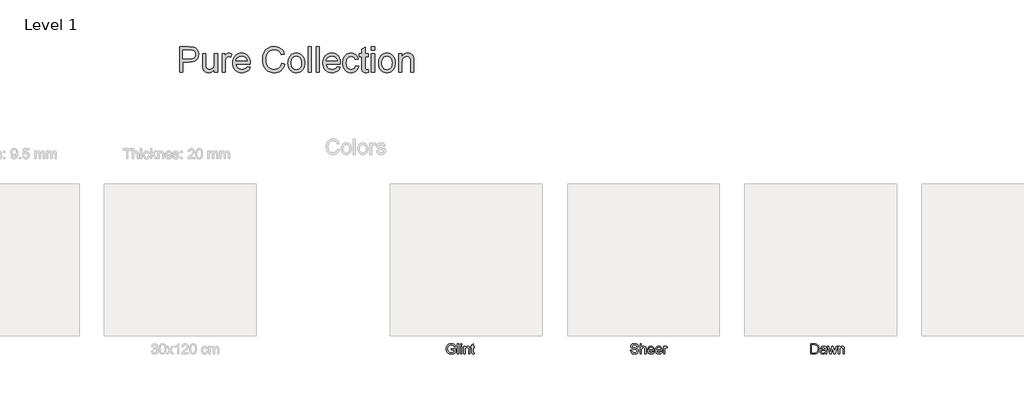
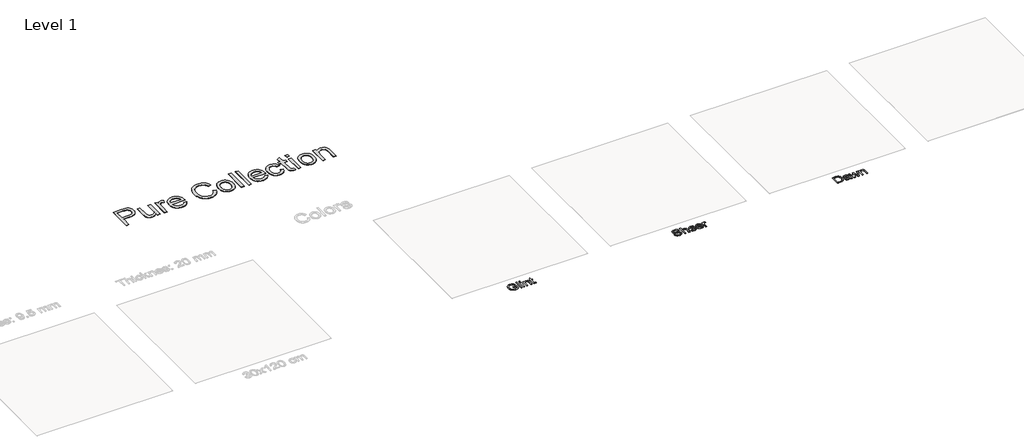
# One storey, part 4 of 5: 4 proxies.
"""IFC4 building model written with IfcOpenShell, lengths in millimetres."""

import ifcopenshell
import ifcopenshell.guid

model = None  # the IFC model being written
_history = None  # IfcOwnerHistory: only IFC2X3 demands one
_inside = {}  # id of a spatial element -> (the spatial element, [elements in it])
_under = {}  # id of a project, library or spatial element -> (it, [spatial elements below it])
_declared = {}  # id of a project -> (the project, [libraries it declares])
_typed = {}  # id of a type object -> (the type object, [elements of that type])
_made_of = {}  # id of a material, layer set ... -> (it, [elements and type objects made of it])


def new_model(schema):
    """Start an empty IFC model of exactly this schema.

    Asked for "IFC4X3", IfcOpenShell would pick the latest addendum, in which some entities
    have other attributes; the version numbers below select the first issue.
    IFC2X3 requires an IfcOwnerHistory on every rooted entity: one is made here for all.
    """
    global model, _history
    if schema == "IFC4X3":
        model = ifcopenshell.file(schema_version=(4, 3, 0, 0))
    else:
        model = ifcopenshell.file(schema=schema)
    _inside.clear()
    _under.clear()
    _declared.clear()
    _typed.clear()
    _made_of.clear()
    _history = None
    if model.schema == "IFC2X3":
        org = make("IfcOrganization", Name="unknown")
        user = make(
            "IfcPersonAndOrganization",
            ThePerson=make("IfcPerson", FamilyName="unknown"),
            TheOrganization=org,
        )
        app = make(
            "IfcApplication",
            ApplicationDeveloper=org,
            Version="unknown",
            ApplicationFullName="unknown",
            ApplicationIdentifier="unknown",
        )
        _history = make(
            "IfcOwnerHistory",
            OwningUser=user,
            OwningApplication=app,
            ChangeAction="ADDED",
            CreationDate=0,
        )
    return model


def make(cls, **values):
    """One entity of the class cls with the attributes given. An attribute that is None is left unset."""
    return model.create_entity(
        cls, **{name: value for name, value in values.items() if value is not None}
    )


def rooted(cls, **values):
    """An entity with a GlobalId (a new one), such as an element, a storey or a relation."""
    return make(cls, GlobalId=ifcopenshell.guid.new(), OwnerHistory=_history, **values)


def si_unit(unit_type, name, prefix=None):
    """IfcSIUnit, for example si_unit("LENGTHUNIT", "METRE", prefix="MILLI")."""
    return make("IfcSIUnit", UnitType=unit_type, Prefix=prefix, Name=name)


def assignment(units):
    """IfcUnitAssignment: the units of a project."""
    return None if units is None else make("IfcUnitAssignment", Units=units)


def point(xyz):
    """IfcCartesianPoint."""
    return None if xyz is None else make("IfcCartesianPoint", Coordinates=xyz)


def direction(xyz):
    """IfcDirection."""
    return None if xyz is None else make("IfcDirection", DirectionRatios=xyz)


def frame(location, z_axis=None, x_axis=None):
    """IfcAxis2Placement3D, a coordinate frame: its origin and axes. An axis left out is left unset."""
    return make(
        "IfcAxis2Placement3D",
        Location=point(location),
        Axis=direction(z_axis),
        RefDirection=direction(x_axis),
    )


def origin():
    """The frame at (0, 0, 0) with its axes left unset."""
    return frame((0.0, 0.0, 0.0))


def origin_with_axes():
    """The frame at (0, 0, 0) with the z axis (0, 0, 1) and the x axis (1, 0, 0) written out."""
    return frame((0.0, 0.0, 0.0), z_axis=(0.0, 0.0, 1.0), x_axis=(1.0, 0.0, 0.0))


def place(relative_to, where):
    """IfcLocalPlacement: puts the frame where relative to a parent placement (None: the world)."""
    return make(
        "IfcLocalPlacement", PlacementRelTo=relative_to, RelativePlacement=where
    )


def context(
    kind, dimensions, precision=None, world=None, true_north=None, identifier=None
):
    """IfcGeometricRepresentationContext, for example the 3D "Model" context."""
    return make(
        "IfcGeometricRepresentationContext",
        ContextIdentifier=identifier,
        ContextType=kind,
        CoordinateSpaceDimension=dimensions,
        Precision=precision,
        WorldCoordinateSystem=world,
        TrueNorth=true_north,
    )


def project(units=None, contexts=None):
    """IfcProject with its units and contexts."""
    return rooted(
        "IfcProject",
        Name="project",
        RepresentationContexts=contexts,
        UnitsInContext=assignment(units),
    )


def spatial(cls, under=None, at=None, **own):
    """A site, building, storey or space (cls), placed at a placement, below another one or the project."""
    s = rooted(cls, ObjectPlacement=at, **own)
    if under is not None:
        _under.setdefault(under.id(), (under, []))[1].append(s)
    return s


def polyline(points):
    """IfcPolyline through the points."""
    return make("IfcPolyline", Points=[point(p) for p in points])


def outline(outer, holes=None, kind="AREA"):
    """IfcArbitraryClosedProfileDef: a profile drawn as a closed curve; with holes, ...WithVoids."""
    if holes is None:
        return make("IfcArbitraryClosedProfileDef", ProfileType=kind, OuterCurve=outer)
    return make(
        "IfcArbitraryProfileDefWithVoids",
        ProfileType=kind,
        OuterCurve=outer,
        InnerCurves=holes,
    )


def extrude(swept, where, along, depth):
    """IfcExtrudedAreaSolid: the profile swept, set in the frame where, extruded along a direction by depth."""
    return make(
        "IfcExtrudedAreaSolid",
        SweptArea=swept,
        Position=where,
        ExtrudedDirection=direction(along),
        Depth=depth,
    )


def shape(context_of_items, identifier, shape_type, items):
    """IfcShapeRepresentation: the items that make up one representation, for example the "Body"."""
    return make(
        "IfcShapeRepresentation",
        ContextOfItems=context_of_items,
        RepresentationIdentifier=identifier,
        RepresentationType=shape_type,
        Items=items,
    )


def made_of(thing, what):
    """Note that an element or type object is made of a material, layer set ...; save() writes the relation."""
    if what is not None:
        _made_of.setdefault(what.id(), (what, []))[1].append(thing)
    return thing


def element(
    cls,
    number,
    at=None,
    inside=None,
    cuts=None,
    type_object=None,
    material=None,
    context=None,
    identifier="Body",
    shape_type=None,
    held_by="IfcProductDefinitionShape",
    body=None,
    shapes=None,
    **own,
):
    """One element of the class cls, such as IfcWall. Its Tag is "e" and its number.

    at: its placement. inside: the storey or other place that contains it. cuts: it is an
    opening in that element (IfcRelVoidsElement). A single representation is given by context,
    identifier, shape_type and body (its items); several are given by shapes. held_by: the class
    of the entity that holds the representations. save() writes the other relations.
    """
    e = rooted(cls, Tag="e%d" % number, ObjectPlacement=at, **own)
    if body is not None:
        shapes = [shape(context, identifier, shape_type, body)]
    if shapes is not None:
        e.Representation = make(held_by, Representations=shapes)
    if inside is not None:
        _inside.setdefault(inside.id(), (inside, []))[1].append(e)
    if cuts is not None:
        rooted(
            "IfcRelVoidsElement", RelatingBuildingElement=cuts, RelatedOpeningElement=e
        )
    if type_object is not None:
        _typed.setdefault(type_object.id(), (type_object, []))[1].append(e)
    return made_of(e, material)


def aggregate(whole, parts):
    """IfcRelAggregates: a whole, such as a stair, and the parts it consists of."""
    return rooted("IfcRelAggregates", RelatingObject=whole, RelatedObjects=parts)


def save(model, path):
    """Write the relations noted so far, then the file.

    IfcRelAggregates (storeys below a building ...), IfcRelContainedInSpatialStructure (elements
    in a storey), IfcRelDefinesByType, IfcRelAssociatesMaterial and IfcRelDeclares: one each for
    every whole, place, type object, material and project.
    """
    for whole, parts in _under.values():
        aggregate(whole, parts)
    for where, things in _inside.values():
        rooted(
            "IfcRelContainedInSpatialStructure",
            RelatedElements=things,
            RelatingStructure=where,
        )
    for kind, things in _typed.values():
        rooted("IfcRelDefinesByType", RelatedObjects=things, RelatingType=kind)
    for what, things in _made_of.values():
        rooted("IfcRelAssociatesMaterial", RelatedObjects=things, RelatingMaterial=what)
    for by, libraries in _declared.values():
        rooted("IfcRelDeclares", RelatingContext=by, RelatedDefinitions=libraries)
    model.write(path)


model = new_model("IFC4")

# Units and contexts
model_context = context("Model", 3, world=origin())
ifc_project = project(units=[si_unit("LENGTHUNIT", "METRE", prefix="MILLI")], contexts=[model_context])

# Site, building, storey
site = spatial("IfcSite", under=ifc_project)
building = spatial("IfcBuilding", under=site)
storey = spatial("IfcBuildingStorey", under=building, Name="Level 1", Elevation=0.0)

# Proxies
placement = place(None, origin())
element("IfcBuildingElementProxy", 1, Name="1000mm Arial", ObjectType="1000mm Arial", at=placement, inside=storey, context=model_context, shape_type="SweptSolid", body=[
    extrude(outline(polyline([(-6993.5646358, 15046.8260502), (-6993.5646358, 16051.3891517), (-6621.2680567, 16051.3891517), (-6534.5705332, 16048.9979187), (-6471.1722027, 16041.8242198), (-6436.2310773, 16034.2903031), (-6404.2483364, 16023.9512862), (-6375.2239798, 16010.8071691), (-6349.1580076, 15994.8579518), (-6325.7745083, 15975.7740733), (-6304.7975704, 15953.2259726), (-6286.2271938, 15927.2136499), (-6270.0633786, 15897.737105), (-6256.972911, 15865.7696925), (-6247.6225769, 15832.2847667), (-6242.0123765, 15797.2823277), (-6240.1423097, 15760.7623755), (-6245.1930229, 15699.0961561), (-6260.3451626, 15642.3656867), (-6285.5987287, 15590.5709675), (-6320.9537213, 15543.7119983), (-6343.1895054, 15522.903673), (-6369.491152, 15504.869791), (-6399.8586611, 15489.6103524), (-6434.2920327, 15477.1253572), (-6472.7912667, 15467.4148054), (-6515.3563631, 15460.4786969), (-6612.6841435, 15454.9298102), (-6867.9942481, 15454.9298102), (-6867.9942481, 15046.8260502), (-6993.5646358, 15046.8260502)]), holes=[polyline([(-6867.9942481, 15580.5001979), (-6605.3265036, 15580.5001979), (-6544.9325427, 15583.3819402), (-6493.9808864, 15592.027167), (-6452.4715346, 15606.4358785), (-6420.4044873, 15626.6080746), (-6396.4768292, 15652.0072607), (-6379.3856449, 15682.0969422), (-6369.1309343, 15716.8771192), (-6365.7126974, 15756.3477916), (-6367.7283842, 15785.6557238), (-6373.7754444, 15812.7563641), (-6383.8538783, 15837.6497125), (-6397.9636856, 15860.3357689), (-6415.3537741, 15880.0787693), (-6435.2730513, 15896.1429497), (-6457.7215172, 15908.5283102), (-6482.6991719, 15917.2348508), (-6531.1369679, 15923.6727857), (-6608.2695595, 15925.818764), (-6867.9942481, 15925.818764), (-6867.9942481, 15580.5001979)])]), origin_with_axes(), (0.0, 0.0, 1.0), 5.0),
    extrude(outline(polyline([(-5612.2903713, 15046.8260502), (-5612.2903713, 15173.6227112), (-5634.0720511, 15140.2259238), (-5657.7237977, 15111.2820414), (-5683.2456111, 15086.791064), (-5710.6374913, 15066.7529916), (-5739.8994383, 15051.1678242), (-5771.0314522, 15040.0355617), (-5804.0335328, 15033.3562042), (-5838.9056803, 15031.1297517), (-5870.0147015, 15032.6932502), (-5900.066062, 15037.3837456), (-5929.0597617, 15045.201238), (-5956.9958007, 15056.1457274), (-6004.7591465, 15084.3500137), (-6023.3525156, 15100.8433898), (-6038.420349, 15118.9309212), (-6061.0757485, 15160.9307824), (-6075.8216852, 15211.3919294), (-6081.3399151, 15258.9713341), (-6083.1793251, 15328.1331492), (-6083.1793251, 15784.5520779), (-5957.6089374, 15784.5520779), (-5957.6089374, 15387.2395231), (-5955.7082138, 15307.7770121), (-5950.0060428, 15259.2165887), (-5942.4874546, 15236.5841818), (-5931.7039136, 15216.5116205), (-5917.6554199, 15198.9989047), (-5900.3419735, 15184.0460344), (-5880.2847405, 15172.0822053), (-5858.0048872, 15163.5366132), (-5833.5024135, 15158.4092579), (-5806.7773194, 15156.7001394), (-5779.2551476, 15158.4475789), (-5752.6066956, 15163.6898973), (-5726.8319633, 15172.4270947), (-5701.9309508, 15184.659171), (-5679.2525586, 15199.9032812), (-5660.1456875, 15217.6765801), (-5644.6103374, 15237.9790677), (-5632.6465083, 15260.8107441), (-5623.7406984, 15287.6278087), (-5617.3794055, 15319.8864611), (-5612.2903713, 15400.7285296), (-5612.2903713, 15784.5520779), (-5486.7199836, 15784.5520779), (-5486.7199836, 15046.8260502), (-5612.2903713, 15046.8260502)])), origin_with_axes(), (0.0, 0.0, 1.0), 5.0),
    extrude(outline(polyline([(-5314.0607005, 15046.8260502), (-5314.0607005, 15784.5520779), (-5204.1866113, 15784.5520779), (-5204.1866113, 15675.4137526), (-5163.5969645, 15738.6894558), (-5144.4977576, 15760.5784345), (-5126.1956283, 15775.9681646), (-5088.6716648, 15794.1783234), (-5047.714136, 15800.2483763), (-5016.5667937, 15797.8264865), (-4985.1741968, 15790.5608171), (-4953.5363452, 15778.4513681), (-4921.653239, 15761.4981395), (-4963.5917864, 15648.926249), (-5007.7376259, 15668.2400537), (-5029.8105456, 15673.0685049), (-5051.8834653, 15674.6779886), (-5071.1282921, 15673.1298186), (-5089.376772, 15668.4853084), (-5106.6289047, 15660.7444581), (-5122.8846903, 15649.9072676), (-5137.5309923, 15636.3262906), (-5149.9546738, 15620.3540807), (-5168.1341758, 15581.2359619), (-5183.4012786, 15511.0931281), (-5188.4903128, 15434.5736731), (-5188.4903128, 15046.8260502), (-5314.0607005, 15046.8260502)])), origin_with_axes(), (0.0, 0.0, 1.0), 5.0),
    extrude(outline(polyline([(-4326.6654255, 15266.5742286), (-4203.5475844, 15250.8779302), (-4222.4245293, 15201.5664144), (-4247.9080217, 15158.1103537), (-4279.9980615, 15120.5097481), (-4318.6946489, 15088.7645976), (-4363.5992449, 15063.5493526), (-4414.3133108, 15045.5384632), (-4470.8368465, 15034.7319296), (-4533.1698521, 15031.1297517), (-4573.1885154, 15032.6836699), (-4611.084193, 15037.3454246), (-4646.8568849, 15045.1150157), (-4680.5065911, 15055.9924432), (-4712.0333117, 15069.9777072), (-4741.4370466, 15087.0708076), (-4768.7177958, 15107.2717445), (-4793.8755593, 15130.5805178), (-4816.4658131, 15156.6943913), (-4836.044033, 15185.3106287), (-4852.6102191, 15216.4292302), (-4866.1643714, 15250.0501957), (-4876.7064898, 15286.1735251), (-4884.2365744, 15324.7992186), (-4888.7546251, 15365.927276), (-4890.2606421, 15409.5576974), (-4888.7392967, 15454.6730592), (-4884.1752607, 15497.1902544), (-4876.5685341, 15537.1092829), (-4865.9191167, 15574.4301449), (-4852.2270087, 15609.1528403), (-4835.49221, 15641.2773691), (-4815.7147207, 15670.8037314), (-4792.8945407, 15697.731927), (-4767.6486388, 15721.7592198), (-4740.5939837, 15742.5828736), (-4711.7305755, 15760.2028883), (-4681.0584141, 15774.619264), (-4648.5774996, 15785.8320006), (-4614.287832, 15793.8410982), (-4578.1894112, 15798.6465568), (-4540.2822373, 15800.2483763), (-4503.6147491, 15798.6503889), (-4468.6602114, 15793.8564266), (-4435.4186242, 15785.8664896), (-4403.8899876, 15774.6805776), (-4374.0743015, 15760.2986909), (-4345.971566, 15742.7208293), (-4319.581781, 15721.9469929), (-4294.9049465, 15697.9771817), (-4272.5733598, 15671.1102997), (-4253.219318, 15641.6452511), (-4236.842821, 15609.582036), (-4223.443869, 15574.9206543), (-4213.0224618, 15537.6611059), (-4205.5785996, 15497.803391), (-4199.6235098, 15410.2934614), (-4200.3592738, 15376.4483179), (-4764.6902544, 15376.4483179), (-4757.4169208, 15326.3397244), (-4742.9545598, 15282.4544681), (-4721.3031716, 15244.7925488), (-4692.462756, 15213.3539667), (-4658.0274684, 15188.5679172), (-4619.5914641, 15170.8635962), (-4577.1547431, 15160.2410036), (-4530.7173054, 15156.7001394), (-4495.9831137, 15158.34028), (-4463.8854097, 15163.2607017), (-4434.4241932, 15171.4614045), (-4407.5994644, 15182.9423884), (-4383.4112232, 15198.0102218), (-4361.8594697, 15216.971473), (-4342.9442037, 15239.8261419), (-4326.6654255, 15266.5742286)]), holes=[polyline([(-4764.6902544, 15502.0187056), (-4325.1938975, 15502.0187056), (-4331.6471608, 15537.5499749), (-4342.1777829, 15568.360092), (-4356.7857638, 15594.4490568), (-4375.4711035, 15615.8168694), (-4409.7147859, 15641.5686091), (-4448.6796205, 15659.9627088), (-4492.3656074, 15670.9991687), (-4540.7727466, 15674.6779886), (-4584.9262503, 15671.7425969), (-4625.4162624, 15662.9364216), (-4662.2427829, 15648.2594628), (-4695.405812, 15627.7117206), (-4723.234552, 15602.2435566), (-4744.0582058, 15572.8053328), (-4757.8767733, 15539.3970491), (-4764.6902544, 15502.0187056)])]), origin_with_axes(), (0.0, 0.0, 1.0), 5.0),
    extrude(outline(polyline([(-2959.6159314, 15403.9168402), (-2834.0455437, 15371.5432246), (-2858.8929068, 15293.4526069), (-2891.9869579, 15225.218161), (-2933.3276971, 15166.8398869), (-2957.0905748, 15141.3468143), (-2982.9151244, 15118.3177846), (-3039.6302653, 15080.1730202), (-3102.3541455, 15052.9267599), (-3171.0867649, 15036.5790038), (-3245.8281236, 15031.1297517), (-3322.4012281, 15035.2530958), (-3391.4787369, 15047.6231278), (-3453.06065, 15068.239848), (-3507.1469675, 15097.1032562), (-3554.4811176, 15133.7841568), (-3595.8065284, 15177.8533541), (-3631.1231999, 15229.3108482), (-3660.4311322, 15288.156639), (-3683.4467495, 15351.8462094), (-3699.8864762, 15417.8350423), (-3709.7503122, 15486.1231377), (-3713.0382575, 15556.7104955), (-3709.3211165, 15632.4482013), (-3698.1696935, 15703.1888433), (-3679.5839886, 15768.9324215), (-3653.5640016, 15829.6789359), (-3620.6922125, 15884.4243753), (-3581.5511011, 15932.1647284), (-3536.1406673, 15972.8999952), (-3484.4609112, 16006.6301756), (-3428.2669364, 16033.0793582), (-3369.3138467, 16051.9716315), (-3307.601642, 16063.3069955), (-3243.1303223, 16067.0854501), (-3171.309027, 16062.1956853), (-3105.4504856, 16047.5263907), (-3045.5546983, 16023.0775665), (-2991.621665, 15988.8492125), (-2944.5404338, 15945.7457054), (-2905.2000529, 15894.6714217), (-2873.6005224, 15835.6263615), (-2849.7418421, 15768.6105247), (-2975.3122298, 15738.6894558), (-2995.0858871, 15788.0699494), (-3018.8449326, 15830.2614158), (-3046.5893664, 15865.2638548), (-3078.3191885, 15893.0772664), (-3114.2183398, 15914.2688022), (-3154.4707615, 15929.4056135), (-3199.0764534, 15938.4877002), (-3248.0354156, 15941.5150625), (-3304.3673461, 15938.1581393), (-3355.8861538, 15928.0873696), (-3402.5918388, 15911.3027536), (-3444.484401, 15887.8042912), (-3481.0350101, 15858.649643), (-3511.7148356, 15824.89647), (-3536.5238777, 15786.544772), (-3555.4621362, 15743.5945491), (-3569.4646447, 15697.9925101), (-3579.4664364, 15651.6853639), (-3585.4675115, 15604.6731106), (-3587.4678698, 15556.9557502), (-3585.0996295, 15496.990985), (-3577.9949084, 15440.9502944), (-3566.1537067, 15388.8336784), (-3549.5760243, 15340.641137), (-3527.9936139, 15297.3306963), (-3501.1382283, 15259.8603822), (-3469.0098674, 15228.2301949), (-3431.6085312, 15202.4401341), (-3390.7506371, 15182.4288865), (-3348.2526024, 15168.1351381), (-3304.1144272, 15159.5588891), (-3258.3361115, 15156.7001394), (-3203.7439562, 15160.5935572), (-3153.5203997, 15172.2738105), (-3107.6654418, 15191.7408995), (-3066.1790826, 15218.9948239), (-3030.0423408, 15253.9129566), (-3000.236235, 15296.3726703), (-2976.7607652, 15346.3739648), (-2959.6159314, 15403.9168402)])), origin_with_axes(), (0.0, 0.0, 1.0), 5.0),
    extrude(outline(polyline([(-2708.475156, 15415.689064), (-2706.7775339, 15465.1117108), (-2701.6846675, 15511.2310839), (-2693.1965569, 15554.0471831), (-2681.313202, 15593.5600087), (-2666.0346029, 15629.7695605), (-2647.3607596, 15662.6758385), (-2625.2916719, 15692.2788428), (-2599.8273401, 15718.5785734), (-2551.9720239, 15754.3091122), (-2499.1503007, 15779.8309256), (-2441.3621707, 15795.1440136), (-2378.6076337, 15800.2483763), (-2343.139594, 15798.6944581), (-2309.3308554, 15794.0327034), (-2277.181418, 15786.2631123), (-2246.6912816, 15775.3856848), (-2217.8604462, 15761.4004208), (-2190.688912, 15744.3073204), (-2165.1766788, 15724.1063836), (-2141.3237468, 15700.7976103), (-2119.7394203, 15674.7488826), (-2101.0330041, 15646.3280824), (-2085.204498, 15615.5352097), (-2072.2539022, 15582.3702647), (-2062.1812165, 15546.8332471), (-2054.986441, 15508.9241572), (-2049.2306206, 15425.9897599), (-2051.7751378, 15358.7746537), (-2059.4086892, 15299.1317852), (-2072.1312748, 15247.0611545), (-2089.9428948, 15202.5627615), (-2112.6212869, 15164.1267572), (-2139.9441893, 15130.2432926), (-2171.9116018, 15100.9123677), (-2208.5235246, 15076.1339825), (-2248.3544147, 15056.4446315), (-2289.9787297, 15042.3808094), (-2333.3964693, 15033.9425162), (-2378.6076337, 15031.1297517), (-2414.6351605, 15032.6779218), (-2448.8960874, 15037.322432), (-2481.3904142, 15045.0632823), (-2512.1181411, 15055.9004727), (-2541.0792679, 15069.8340033), (-2568.2737948, 15086.863874), (-2593.7017217, 15106.9900848), (-2617.3630485, 15130.2126358), (-2638.7174487, 15156.3475858), (-2657.2245955, 15185.210994), (-2672.884489, 15216.8028604), (-2685.6971291, 15251.1231848), (-2695.6625159, 15288.1719674), (-2702.7806493, 15327.9492082), (-2708.475156, 15415.689064)]), holes=[polyline([(-2582.9047683, 15415.9343187), (-2579.2719336, 15355.0268559), (-2568.3734295, 15302.289439), (-2550.209256, 15257.7220681), (-2524.7794131, 15221.3247432), (-2493.8466686, 15193.0514791), (-2459.1737906, 15172.8562904), (-2420.7607789, 15160.7391772), (-2378.6076337, 15156.7001394), (-2336.6690862, 15160.7621698), (-2298.4093587, 15172.9482609), (-2263.8284512, 15193.2584127), (-2232.9263636, 15221.6926252), (-2207.4965207, 15258.4501679), (-2189.3323471, 15303.7303102), (-2178.433843, 15357.5330519), (-2174.8010083, 15419.8583933), (-2178.4568357, 15478.8344757), (-2189.4243176, 15530.192335), (-2207.7034543, 15573.9319714), (-2233.2942456, 15610.0533848), (-2264.3112963, 15638.326649), (-2298.8692112, 15658.5218377), (-2336.9679903, 15670.6389509), (-2378.6076337, 15674.6779886), (-2420.7607789, 15670.6542793), (-2459.1737906, 15658.5831513), (-2493.8466686, 15638.4646047), (-2524.7794131, 15610.2986395), (-2550.209256, 15574.0086135), (-2568.3734295, 15529.5178847), (-2579.2719336, 15476.8264531), (-2582.9047683, 15415.9343187)])]), origin_with_axes(), (0.0, 0.0, 1.0), 5.0),
    extrude(outline(polyline([(-1907.9639345, 15046.8260502), (-1907.9639345, 16051.3891517), (-1782.3935468, 16051.3891517), (-1782.3935468, 15046.8260502), (-1907.9639345, 15046.8260502)])), origin_with_axes(), (0.0, 0.0, 1.0), 5.0),
    extrude(outline(polyline([(-1594.0379653, 15046.8260502), (-1594.0379653, 16051.3891517), (-1468.4675776, 16051.3891517), (-1468.4675776, 15046.8260502), (-1594.0379653, 15046.8260502)])), origin_with_axes(), (0.0, 0.0, 1.0), 5.0),
    extrude(outline(polyline([(-763.6056748, 15266.5742286), (-640.4878338, 15250.8779302), (-659.3647787, 15201.5664144), (-684.848271, 15158.1103537), (-716.9383109, 15120.5097481), (-755.6348983, 15088.7645976), (-800.5394943, 15063.5493526), (-851.2535602, 15045.5384632), (-907.7770959, 15034.7319296), (-970.1101015, 15031.1297517), (-1010.1287647, 15032.6836699), (-1048.0244424, 15037.3454246), (-1083.7971343, 15045.1150157), (-1117.4468405, 15055.9924432), (-1148.9735611, 15069.9777072), (-1178.377296, 15087.0708076), (-1205.6580452, 15107.2717445), (-1230.8158087, 15130.5805178), (-1253.4060625, 15156.6943913), (-1272.9842824, 15185.3106287), (-1289.5504685, 15216.4292302), (-1303.1046208, 15250.0501957), (-1313.6467392, 15286.1735251), (-1321.1768238, 15324.7992186), (-1325.6948745, 15365.927276), (-1327.2008914, 15409.5576974), (-1325.6795461, 15454.6730592), (-1321.1155101, 15497.1902544), (-1313.5087834, 15537.1092829), (-1302.8593661, 15574.4301449), (-1289.1672581, 15609.1528403), (-1272.4324594, 15641.2773691), (-1252.6549701, 15670.8037314), (-1229.8347901, 15697.731927), (-1204.5888881, 15721.7592198), (-1177.5342331, 15742.5828736), (-1148.6708249, 15760.2028883), (-1117.9986635, 15774.619264), (-1085.517749, 15785.8320006), (-1051.2280814, 15793.8410982), (-1015.1296606, 15798.6465568), (-977.2224867, 15800.2483763), (-940.5549985, 15798.6503889), (-905.6004608, 15793.8564266), (-872.3588736, 15785.8664896), (-840.830237, 15774.6805776), (-811.0145509, 15760.2986909), (-782.9118154, 15742.7208293), (-756.5220304, 15721.9469929), (-731.8451959, 15697.9771817), (-709.5136092, 15671.1102997), (-690.1595673, 15641.6452511), (-673.7830704, 15609.582036), (-660.3841184, 15574.9206543), (-649.9627112, 15537.6611059), (-642.518849, 15497.803391), (-636.5637592, 15410.2934614), (-637.2995232, 15376.4483179), (-1201.6305038, 15376.4483179), (-1194.3571701, 15326.3397244), (-1179.8948092, 15282.4544681), (-1158.243421, 15244.7925488), (-1129.4030054, 15213.3539667), (-1094.9677178, 15188.5679172), (-1056.5317135, 15170.8635962), (-1014.0949925, 15160.2410036), (-967.6575548, 15156.7001394), (-932.9233631, 15158.34028), (-900.825659, 15163.2607017), (-871.3644426, 15171.4614045), (-844.5397138, 15182.9423884), (-820.3514726, 15198.0102218), (-798.799719, 15216.971473), (-779.8844531, 15239.8261419), (-763.6056748, 15266.5742286)]), holes=[polyline([(-1201.6305038, 15502.0187056), (-762.1341469, 15502.0187056), (-768.5874102, 15537.5499749), (-779.1180323, 15568.360092), (-793.7260132, 15594.4490568), (-812.4113529, 15615.8168694), (-846.6550352, 15641.5686091), (-885.6198699, 15659.9627088), (-929.3058568, 15670.9991687), (-977.712996, 15674.6779886), (-1021.8664997, 15671.7425969), (-1062.3565117, 15662.9364216), (-1099.1830323, 15648.2594628), (-1132.3460613, 15627.7117206), (-1160.1748014, 15602.2435566), (-1180.9984552, 15572.8053328), (-1194.8170226, 15539.3970491), (-1201.6305038, 15502.0187056)])]), origin_with_axes(), (0.0, 0.0, 1.0), 5.0),
    extrude(outline(polyline([(-40.1044177, 15313.663124), (85.46597, 15297.9668256), (71.808351, 15238.7148317), (50.4558668, 15186.2839832), (21.4085176, 15140.67428), (-15.3336966, 15101.8857221), (-58.2226059, 15070.9299851), (-105.7100401, 15048.8187443), (-157.7959993, 15035.5519999), (-214.4804834, 15031.1297517), (-250.6038128, 15032.6721736), (-284.9068928, 15037.2994394), (-317.3897234, 15045.0115489), (-348.0523044, 15055.8085022), (-376.8946361, 15069.6902994), (-403.9167183, 15086.6569404), (-429.118551, 15106.7084252), (-452.5001342, 15129.8447538), (-473.5671266, 15155.8628247), (-491.8251867, 15184.5595363), (-507.2743144, 15215.9348888), (-519.9145099, 15249.988882), (-529.745773, 15286.721516), (-536.7681038, 15326.1327908), (-542.3859684, 15412.9912627), (-539.9870712, 15470.7257433), (-532.7903797, 15524.7354188), (-520.7958938, 15575.020289), (-504.0036136, 15621.580354), (-482.2985759, 15663.4805804), (-455.5658175, 15699.7859348), (-423.8053386, 15730.4964172), (-387.0171391, 15755.6120276), (-346.8643522, 15775.1404301), (-305.010111, 15789.0892891), (-261.4544156, 15797.4586045), (-216.197266, 15800.2483763), (-160.4861364, 15796.4162722), (-110.0939672, 15784.9199598), (-65.0207586, 15765.7594393), (-25.2665105, 15738.9347104), (8.4943268, 15705.0589101), (35.5873029, 15664.7451748), (56.0124178, 15617.9935045), (69.7696716, 15564.8038994), (-55.8007161, 15549.1076009), (-65.6032384, 15578.4385258), (-78.578743, 15603.8913614), (-94.7272297, 15625.4661076), (-114.0486987, 15643.1627644), (-136.0526405, 15656.950675), (-160.2485459, 15666.7991826), (-186.6364149, 15672.7082871), (-215.2162474, 15674.6779886), (-257.8828946, 15670.7998993), (-296.3648841, 15659.1656312), (-330.662216, 15639.7751843), (-360.7748901, 15612.6285588), (-385.2926923, 15577.0972894), (-402.8054081, 15532.5529112), (-413.3130376, 15478.995424), (-416.8155807, 15416.424828), (-413.3896796, 15352.9115344), (-403.1119764, 15298.7332464), (-385.982471, 15253.889964), (-362.0011634, 15218.3816873), (-332.4862975, 15191.3960101), (-298.7561171, 15172.1205264), (-260.8106221, 15160.5552362), (-218.6498126, 15156.7001394), (-184.6743775, 15159.1067008), (-153.62667, 15166.326385), (-125.50669, 15178.3591919), (-100.3144375, 15195.2051216), (-78.7550198, 15217.048115), (-61.5335439, 15244.0721133), (-48.6500098, 15276.2771163), (-40.1044177, 15313.663124)])), origin_with_axes(), (0.0, 0.0, 1.0), 5.0),
    extrude(outline(polyline([(462.1771331, 15151.5497915), (477.8734316, 15043.1472302), (428.1480485, 15034.1341214), (383.9408955, 15031.1297517), (323.6695619, 15036.3414133), (299.2820513, 15042.8559903), (278.7266448, 15051.9763981), (246.9661659, 15076.0726688), (235.2245989, 15090.5580224), (226.2421469, 15106.6681881), (219.5896141, 15128.2659269), (214.837805, 15159.2139997), (211.0363577, 15249.1611475), (211.0363577, 15658.9816902), (116.858567, 15658.9816902), (116.858567, 15784.5520779), (211.0363577, 15784.5520779), (211.0363577, 15963.8332368), (336.6067454, 16037.6548905), (336.6067454, 15784.5520779), (462.1771331, 15784.5520779), (462.1771331, 15658.9816902), (336.6067454, 15658.9816902), (336.6067454, 15252.8399675), (338.2622144, 15211.5145567), (343.2286213, 15188.0927363), (351.904505, 15175.124896), (364.6884044, 15165.1614253), (382.8065926, 15158.8154609), (407.4853431, 15156.7001394), (462.1771331, 15151.5497915)])), origin_with_axes(), (0.0, 0.0, 1.0), 5.0),
    extrude(outline(polyline([(587.7475208, 15925.818764), (587.7475208, 16051.3891517), (713.3179085, 16051.3891517), (713.3179085, 15925.818764), (587.7475208, 15925.818764)])), origin_with_axes(), (0.0, 0.0, 1.0), 5.0),
    extrude(outline(polyline([(587.7475208, 15046.8260502), (587.7475208, 15784.5520779), (713.3179085, 15784.5520779), (713.3179085, 15046.8260502), (587.7475208, 15046.8260502)])), origin_with_axes(), (0.0, 0.0, 1.0), 5.0),
    extrude(outline(polyline([(870.2808931, 15415.689064), (871.9785152, 15465.1117108), (877.0713816, 15511.2310839), (885.5594922, 15554.0471831), (897.4428471, 15593.5600087), (912.7214462, 15629.7695605), (931.3952895, 15662.6758385), (953.4643771, 15692.2788428), (978.928709, 15718.5785734), (1026.7840252, 15754.3091122), (1079.6057483, 15779.8309256), (1137.3938784, 15795.1440136), (1200.1484154, 15800.2483763), (1235.6164551, 15798.6944581), (1269.4251936, 15794.0327034), (1301.5746311, 15786.2631123), (1332.0647675, 15775.3856848), (1360.8956028, 15761.4004208), (1388.0671371, 15744.3073204), (1413.5793702, 15724.1063836), (1437.4323023, 15700.7976103), (1459.0166287, 15674.7488826), (1477.723045, 15646.3280824), (1493.551551, 15615.5352097), (1506.5021469, 15582.3702647), (1516.5748326, 15546.8332471), (1523.7696081, 15508.9241572), (1529.5254284, 15425.9897599), (1526.9809113, 15358.7746537), (1519.3473599, 15299.1317852), (1506.6247742, 15247.0611545), (1488.8131543, 15202.5627615), (1466.1347621, 15164.1267572), (1438.8118598, 15130.2432926), (1406.8444473, 15100.9123677), (1370.2325245, 15076.1339825), (1330.4016343, 15056.4446315), (1288.7773194, 15042.3808094), (1245.3595798, 15033.9425162), (1200.1484154, 15031.1297517), (1164.1208886, 15032.6779218), (1129.8599617, 15037.322432), (1097.3656349, 15045.0632823), (1066.637908, 15055.9004727), (1037.6767811, 15069.8340033), (1010.4822543, 15086.863874), (985.0543274, 15106.9900848), (961.3930006, 15130.2126358), (940.0386004, 15156.3475858), (921.5314535, 15185.210994), (905.8715601, 15216.8028604), (893.0589199, 15251.1231848), (883.0935332, 15288.1719674), (875.9753998, 15327.9492082), (870.2808931, 15415.689064)]), holes=[polyline([(995.8512808, 15415.9343187), (999.4841155, 15355.0268559), (1010.3826196, 15302.289439), (1028.5467931, 15257.7220681), (1053.976636, 15221.3247432), (1084.9093804, 15193.0514791), (1119.5822585, 15172.8562904), (1157.9952701, 15160.7391772), (1200.1484154, 15156.7001394), (1242.0869629, 15160.7621698), (1280.3466904, 15172.9482609), (1314.9275979, 15193.2584127), (1345.8296855, 15221.6926252), (1371.2595284, 15258.4501679), (1389.4237019, 15303.7303102), (1400.322206, 15357.5330519), (1403.9550407, 15419.8583933), (1400.2992134, 15478.8344757), (1389.3317314, 15530.192335), (1371.0525948, 15573.9319714), (1345.4618035, 15610.0533848), (1314.4447528, 15638.326649), (1279.8868379, 15658.5218377), (1241.7880587, 15670.6389509), (1200.1484154, 15674.6779886), (1157.9952701, 15670.6542793), (1119.5822585, 15658.5831513), (1084.9093804, 15638.4646047), (1053.976636, 15610.2986395), (1028.5467931, 15574.0086135), (1010.3826196, 15529.5178847), (999.4841155, 15476.8264531), (995.8512808, 15415.9343187)])]), origin_with_axes(), (0.0, 0.0, 1.0), 5.0),
    extrude(outline(polyline([(1670.7921146, 15046.8260502), (1670.7921146, 15784.5520779), (1796.3625023, 15784.5520779), (1796.3625023, 15681.5451192), (1817.0788571, 15709.3661951), (1839.9871755, 15733.4777942), (1865.0874575, 15753.8799165), (1892.379703, 15770.572562), (1921.8639121, 15783.5557308), (1953.5400847, 15792.8294227), (1987.4082209, 15798.3936379), (2023.4683206, 15800.2483763), (2085.3644663, 15794.2702939), (2114.3581661, 15786.7976909), (2142.0489504, 15776.3360466), (2167.3868228, 15763.4448484), (2189.3217868, 15748.6835833), (2207.8538423, 15732.0522515), (2222.9829893, 15713.5508528), (2245.8223299, 15671.0298255), (2260.6295802, 15621.212472), (2265.5959871, 15573.5717536), (2267.2514561, 15499.8114136), (2267.2514561, 15046.8260502), (2141.6810684, 15046.8260502), (2141.6810684, 15482.8888418), (2138.0635621, 15547.820014), (2127.2110433, 15593.9892043), (2118.588809, 15611.4559349), (2107.1921314, 15627.0679271), (2093.0210103, 15640.8251809), (2076.0754459, 15652.7276962), (2036.1909063, 15669.1904155), (1989.8684317, 15674.6779886), (1951.7389958, 15671.5969769), (1916.3226895, 15662.3539418), (1883.619513, 15646.9488832), (1853.6294662, 15625.3818013), (1828.5751695, 15595.2001493), (1810.6792432, 15553.9513805), (1799.9416875, 15501.6354951), (1796.3625023, 15438.2524931), (1796.3625023, 15046.8260502), (1670.7921146, 15046.8260502)])), origin_with_axes(), (0.0, 0.0, 1.0), 5.0),
])
element("IfcBuildingElementProxy", 2, Name="400mm Arial", ObjectType="400mm Arial", at=placement, inside=storey, context=model_context, shape_type="SweptSolid", body=[
    extrude(outline(polyline([(3750.3926169, 4062.0707269), (3750.3926169, 4112.298882), (3913.6341209, 4112.298882), (3913.6341209, 3962.1049261), (3873.9641791, 3934.5137765), (3833.0434385, 3914.7217251), (3790.970001, 3902.8023485), (3747.8419684, 3898.8292229), (3718.990823, 3900.4080498), (3691.4947095, 3905.1445305), (3665.3536281, 3913.038665), (3640.5675786, 3924.0904533), (3617.9367046, 3938.1343484), (3598.2611492, 3955.0048036), (3581.5409125, 3974.7018187), (3567.7759945, 3997.2253939), (3557.0246432, 4021.8550935), (3549.3451066, 4047.8704819), (3544.7373846, 4075.2715592), (3543.2014772, 4104.0583253), (3549.3205811, 4160.6508389), (3556.9694609, 4187.4663707), (3567.6778927, 4213.2947524), (3581.255804, 4237.0016813), (3597.5131225, 4257.4528546), (3616.4498482, 4274.6482721), (3638.0659811, 4288.5879341), (3661.8924716, 4299.3607452), (3687.4602703, 4307.0556102), (3714.7693771, 4311.6725293), (3743.8197919, 4313.2115023), (3785.1942537, 4309.6430469), (3822.3993861, 4298.9376809), (3853.7306694, 4281.8679563), (3877.4835835, 4259.2064254), (3895.0560802, 4229.8617049), (3907.8461109, 4192.7424116), (3861.5420304, 4179.6948635), (3851.2045463, 4206.1701044), (3838.6352448, 4226.1460968), (3822.0069787, 4241.2047331), (3799.4926005, 4252.927906), (3772.6494776, 4260.4694869), (3743.034977, 4262.9833472), (3708.3682303, 4260.2732832), (3678.7292043, 4252.1430911), (3654.2282634, 4239.6105778), (3634.9757723, 4223.6935501), (3620.1991788, 4205.2136112), (3609.1259308, 4184.9923642), (3597.3537069, 4147.0759933), (3593.4296323, 4106.1184645), (3598.1507846, 4058.0853386), (3612.3142414, 4018.5625496), (3635.4908071, 3987.8321403), (3667.251286, 3966.1761535), (3704.4196303, 3953.3370719), (3743.8197919, 3949.057378), (3778.609166, 3952.2824768), (3812.5401486, 3961.9577733), (3842.0074965, 3975.2873643), (3863.4059658, 3989.4753465), (3863.4059658, 4062.0707269), (3750.3926169, 4062.0707269)])), origin_with_axes(), (0.0, 0.0, 1.0), 5.0),
    extrude(outline(polyline([(3988.9763535, 3905.1077423), (3988.9763535, 4306.9329829), (4039.2045086, 4306.9329829), (4039.2045086, 3905.1077423), (3988.9763535, 3905.1077423)])), origin_with_axes(), (0.0, 0.0, 1.0), 5.0),
    extrude(outline(polyline([(4114.5467412, 4256.7048278), (4114.5467412, 4306.9329829), (4164.7748963, 4306.9329829), (4164.7748963, 4256.7048278), (4114.5467412, 4256.7048278)])), origin_with_axes(), (0.0, 0.0, 1.0), 5.0),
    extrude(outline(polyline([(4114.5467412, 3905.1077423), (4114.5467412, 4200.1981534), (4164.7748963, 4200.1981534), (4164.7748963, 3905.1077423), (4114.5467412, 3905.1077423)])), origin_with_axes(), (0.0, 0.0, 1.0), 5.0),
    extrude(outline(polyline([(4240.1171289, 3905.1077423), (4240.1171289, 4200.1981534), (4290.345284, 4200.1981534), (4290.345284, 4158.9953699), (4307.7951533, 4179.7684399), (4328.7521643, 4194.606347), (4353.216317, 4203.5090913), (4381.1876113, 4206.4766728), (4405.9460696, 4204.0854398), (4428.6198632, 4196.9117409), (4447.5289978, 4185.8507556), (4460.9934788, 4171.7976633), (4470.129215, 4154.7892524), (4476.0521151, 4134.862311), (4478.7008655, 4086.3018877), (4478.7008655, 3905.1077423), (4428.4727104, 3905.1077423), (4428.4727104, 4079.532859), (4427.0257079, 4105.5053278), (4422.6847004, 4123.973004), (4414.6771356, 4137.2044931), (4402.2304614, 4147.4684007), (4386.2766456, 4154.0534884), (4367.7476558, 4156.2485177), (4338.3293589, 4151.3188989), (4313.2520695, 4136.5300427), (4303.2303509, 4124.4573819), (4296.0719804, 4107.9578744), (4291.7769581, 4087.0315203), (4290.345284, 4061.6783195), (4290.345284, 3905.1077423), (4240.1171289, 3905.1077423)])), origin_with_axes(), (0.0, 0.0, 1.0), 5.0),
    extrude(outline(polyline([(4654.4994083, 3946.9972388), (4660.7779277, 3903.6362143), (4623.2049132, 3898.8292229), (4599.0963798, 3900.9138876), (4581.119213, 3907.1678815), (4568.4150214, 3916.8063898), (4560.1254138, 3929.0445975), (4555.563677, 3950.0629221), (4554.0430981, 3986.0417812), (4554.0430981, 4149.9699983), (4516.3719818, 4149.9699983), (4516.3719818, 4200.1981534), (4554.0430981, 4200.1981534), (4554.0430981, 4271.910617), (4604.2712532, 4301.4392784), (4604.2712532, 4200.1981534), (4654.4994083, 4200.1981534), (4654.4994083, 4149.9699983), (4604.2712532, 4149.9699983), (4604.2712532, 3987.5133092), (4606.9200036, 3961.6144168), (4615.5039168, 3952.4418924), (4632.6226923, 3949.057378), (4654.4994083, 3946.9972388)])), origin_with_axes(), (0.0, 0.0, 1.0), 5.0),
])
element("IfcBuildingElementProxy", 3, Name="400mm Arial", ObjectType="400mm Arial", at=placement, inside=storey, context=model_context, shape_type="SweptSolid", body=[
    extrude(outline(polyline([(10823.2014772, 4043.2351688), (10873.4296323, 4043.2351688), (10879.1931169, 4015.3619763), (10889.6164401, 3992.9579628), (10905.8768243, 3975.1769997), (10929.1514918, 3961.1729584), (10957.6010328, 3952.0862731), (10989.3860372, 3949.057378), (11017.3695943, 3951.3505091), (11041.8705352, 3958.2299024), (11061.7239002, 3969.1192095), (11075.7647297, 3983.4420818), (11084.115651, 3999.886407), (11086.8992914, 4017.1400726), (11084.8146267, 4033.9522797), (11078.5606328, 4048.4836186), (11065.8564413, 4060.8812418), (11044.4211837, 4071.2923023), (10971.286243, 4090.4712169), (10923.2776427, 4103.1631458), (10892.5594961, 4115.2419379), (10867.5557831, 4132.1399843), (10849.8361337, 4152.6187487), (10839.2779204, 4176.2367728), (10835.758516, 4202.5525981), (10840.1117863, 4231.970895), (10853.1715971, 4259.4026291), (10874.594592, 4282.6527712), (10904.0374143, 4299.5262921), (10939.3786113, 4309.7901997), (10978.4967301, 4313.2115023), (11020.876736, 4309.6307842), (11057.9592411, 4298.8886299), (11088.4198703, 4281.2057687), (11110.9342484, 4256.8029297), (11125.1835443, 4227.2006918), (11130.8489271, 4193.919634), (11080.620772, 4193.919634), (11071.3991967, 4223.8897539), (11063.0360126, 4235.7478168), (11052.171231, 4245.5212152), (11022.1275348, 4258.6178142), (10980.4587674, 4262.9833472), (10937.8089815, 4258.6668651), (10921.5056777, 4253.2712625), (10908.5501001, 4245.7174189), (10891.6275283, 4226.6611316), (10885.9866711, 4204.0241261), (10889.9843221, 4184.7225841), (10901.9772751, 4169.1979639), (10930.3287142, 4155.31655), (10983.9904346, 4141.1408304), (11039.3689376, 4127.6763494), (11072.8707246, 4115.928651), (11101.5042066, 4097.7062295), (11121.4801989, 4075.2163769), (11133.2156346, 4048.7043478), (11137.1274465, 4018.4153968), (11132.6270234, 3987.4519956), (11119.1257542, 3958.3280043), (11097.1754618, 3933.2629777), (11067.3279692, 3914.4764704), (11031.4349492, 3902.7410348), (10991.3480745, 3898.8292229), (10942.1377263, 3903.0476031), (10901.6339186, 3915.7027438), (10869.3706676, 3936.8436958), (10844.8819895, 3966.51951), (10829.1611656, 4002.6700474), (10823.2014772, 4043.2351688)])), origin_with_axes(), (0.0, 0.0, 1.0), 5.0),
    extrude(outline(polyline([(11206.1911597, 3905.1077423), (11206.1911597, 4306.9329829), (11256.4193148, 4306.9329829), (11256.4193148, 4159.1915736), (11274.8685968, 4179.8788045), (11295.5864845, 4194.655398), (11318.5729778, 4203.5213541), (11343.8280768, 4206.4766728), (11374.1660787, 4203.2515739), (11400.2366494, 4193.5762775), (11420.7644647, 4178.2110728), (11434.4742004, 4157.9162494), (11442.1997223, 4130.0307942), (11444.7748963, 4091.893694), (11444.7748963, 3905.1077423), (11394.5467412, 3905.1077423), (11394.5467412, 4086.6942951), (11390.5490902, 4118.135943), (11378.5561372, 4139.6693024), (11359.2300697, 4152.1037139), (11333.2330754, 4156.2485177), (11312.0062842, 4153.4526145), (11292.0793428, 4145.064905), (11275.573704, 4131.8947296), (11264.6108205, 4114.7514286), (11258.4671912, 4091.9672704), (11256.4193148, 4061.8745232), (11256.4193148, 3905.1077423), (11206.1911597, 3905.1077423)])), origin_with_axes(), (0.0, 0.0, 1.0), 5.0),
    extrude(outline(polyline([(11720.441138, 3993.0070137), (11769.6882744, 3986.7284943), (11762.1374965, 3967.003888), (11751.9440995, 3949.6214637), (11739.1080836, 3934.5812215), (11723.6294486, 3921.8831613), (11705.6676102, 3911.7970633), (11685.3819839, 3904.5927075), (11637.8393674, 3898.8292229), (11606.673631, 3901.3154921), (11578.9046717, 3908.7742995), (11554.5324896, 3921.2056453), (11533.5570845, 3938.6095293), (11516.689695, 3960.5015737), (11504.6415596, 3986.3974005), (11497.4126784, 4016.2970097), (11495.0030514, 4050.2004012), (11497.4372039, 4085.253424), (11504.7396615, 4116.1493802), (11516.9104242, 4142.8882699), (11533.9494919, 4165.470093), (11554.8697147, 4183.4104717), (11578.6839425, 4196.2250278), (11605.3921754, 4203.9137615), (11634.9944133, 4206.4766728), (11663.6432236, 4203.9198929), (11689.5513131, 4196.2495533), (11712.7186818, 4183.465654), (11733.1453296, 4165.5681949), (11749.819581, 4143.0354227), (11761.7297606, 4116.3455839), (11768.8758684, 4085.4986786), (11771.2579043, 4050.4947068), (11770.9635987, 4036.9566494), (11545.2312064, 4036.9566494), (11548.1405399, 4016.913212), (11553.9254843, 3999.3591095), (11562.5860396, 3984.2943418), (11574.1222058, 3971.7189089), (11587.8963208, 3961.8044891), (11603.2707225, 3954.7227607), (11638.820386, 3949.057378), (11665.5531443, 3951.6816029), (11688.0675224, 3959.5542776), (11706.3635203, 3973.1659114), (11720.441138, 3993.0070137)]), holes=[polyline([(11545.2312064, 4087.1848045), (11721.0297492, 4087.1848045), (11714.236195, 4113.721359), (11700.9188668, 4132.70407), (11687.2213938, 4143.0047659), (11671.63546, 4150.3624058), (11654.1610652, 4154.7769897), (11634.7982095, 4156.2485177), (11600.9408032, 4151.5518909), (11572.9449834, 4137.4620105), (11553.4840259, 4115.4994553), (11545.2312064, 4087.1848045)])]), origin_with_axes(), (0.0, 0.0, 1.0), 5.0),
    extrude(outline(polyline([(12028.0885878, 3993.0070137), (12077.3357243, 3986.7284943), (12069.7849463, 3967.003888), (12059.5915494, 3949.6214637), (12046.7555334, 3934.5812215), (12031.2768985, 3921.8831613), (12013.3150601, 3911.7970633), (11993.0294337, 3904.5927075), (11945.4868172, 3898.8292229), (11914.3210808, 3901.3154921), (11886.5521216, 3908.7742995), (11862.1799394, 3921.2056453), (11841.2045343, 3938.6095293), (11824.3371448, 3960.5015737), (11812.2890095, 3986.3974005), (11805.0601283, 4016.2970097), (11802.6505012, 4050.2004012), (11805.0846537, 4085.253424), (11812.3871113, 4116.1493802), (11824.557874, 4142.8882699), (11841.5969418, 4165.470093), (11862.5171645, 4183.4104717), (11886.3313924, 4196.2250278), (11913.0396252, 4203.9137615), (11942.6418631, 4206.4766728), (11971.2906735, 4203.9198929), (11997.198763, 4196.2495533), (12020.3661316, 4183.465654), (12040.7927794, 4165.5681949), (12057.4670308, 4143.0354227), (12069.3772104, 4116.3455839), (12076.5233182, 4085.4986786), (12078.9053541, 4050.4947068), (12078.6110485, 4036.9566494), (11852.8786563, 4036.9566494), (11855.7879897, 4016.913212), (11861.5729341, 3999.3591095), (11870.2334894, 3984.2943418), (11881.7696556, 3971.7189089), (11895.5437707, 3961.8044891), (11910.9181724, 3954.7227607), (11946.4678358, 3949.057378), (11973.2005942, 3951.6816029), (11995.7149723, 3959.5542776), (12014.0109702, 3973.1659114), (12028.0885878, 3993.0070137)]), holes=[polyline([(11852.8786563, 4087.1848045), (12028.677199, 4087.1848045), (12021.8836449, 4113.721359), (12008.5663166, 4132.70407), (11994.8688437, 4143.0047659), (11979.2829098, 4150.3624058), (11961.808515, 4154.7769897), (11942.4456594, 4156.2485177), (11908.5882531, 4151.5518909), (11880.5924332, 4137.4620105), (11861.1314757, 4115.4994553), (11852.8786563, 4087.1848045)])]), origin_with_axes(), (0.0, 0.0, 1.0), 5.0),
    extrude(outline(polyline([(12129.1335092, 3905.1077423), (12129.1335092, 4200.1981534), (12173.0831449, 4200.1981534), (12173.0831449, 4156.5428233), (12189.3190036, 4181.8531045), (12204.2795381, 4196.7645881), (12219.2891235, 4204.0486516), (12235.672135, 4206.4766728), (12260.6881107, 4202.6016491), (12286.0964938, 4190.976578), (12269.3210748, 4145.9478218), (12251.662739, 4153.6733437), (12234.0044033, 4156.2485177), (12219.0070806, 4153.7714456), (12205.6039132, 4146.3402293), (12194.7759199, 4134.5189545), (12187.5041191, 4118.871707), (12181.397278, 4090.8145735), (12179.3616643, 4060.2067915), (12179.3616643, 3905.1077423), (12129.1335092, 3905.1077423)])), origin_with_axes(), (0.0, 0.0, 1.0), 5.0),
])
element("IfcBuildingElementProxy", 4, Name="400mm Arial", ObjectType="400mm Arial", at=placement, inside=storey, context=model_context, shape_type="SweptSolid", body=[
    extrude(outline(polyline([(17942.0370354, 3905.1077423), (17942.0370354, 4306.9329829), (18080.6549712, 4306.9329829), (18122.0784838, 4305.4859804), (18152.3674348, 4301.1449728), (18184.3976938, 4289.9858857), (18211.4247577, 4272.4011263), (18239.2121111, 4241.7933443), (18259.0041624, 4203.7298205), (18270.8499627, 4158.946319), (18274.7985628, 4108.1786036), (18272.1252869, 4065.0505711), (18264.1054594, 4027.0974119), (18251.8917772, 3994.78511), (18236.6369371, 3968.5796492), (18219.0767032, 3947.8924183), (18199.9468395, 3932.1348062), (18177.9842844, 3920.4484215), (18151.9259764, 3911.9748729), (18121.7228646, 3906.8245249), (18087.325898, 3905.1077423), (17942.0370354, 3905.1077423)]), holes=[polyline([(17992.2651905, 3955.3358974), (18081.1454805, 3955.3358974), (18117.9091546, 3957.1507819), (18145.7946098, 3962.5954354), (18166.8374599, 3971.3510269), (18183.0733186, 3983.0987253), (18200.5231879, 4004.8405512), (18213.6320497, 4032.9835238), (18221.8358182, 4067.6502705), (18224.5704077, 4108.9634186), (18219.2115933, 4163.7042594), (18212.5130753, 4185.7036028), (18203.1351501, 4204.122228), (18179.3822359, 4231.8850559), (18150.9940087, 4248.6604749), (18122.1030093, 4254.6937396), (18079.7720544, 4256.7048278), (17992.2651905, 4256.7048278), (17992.2651905, 3955.3358974)])]), origin_with_axes(), (0.0, 0.0, 1.0), 5.0),
    extrude(outline(polyline([(18525.9393381, 3942.7788586), (18501.9411693, 3922.2019923), (18477.231762, 3908.7375113), (18451.2470304, 3901.306295), (18423.4228888, 3898.8292229), (18401.0587292, 3900.319145), (18381.4475532, 3904.7889112), (18364.5893607, 3912.2385216), (18350.4841519, 3922.6679762), (18339.3465245, 3935.4150873), (18331.3910764, 3949.8176675), (18326.6178075, 3965.8757165), (18325.0267178, 3983.5892346), (18327.4302135, 4004.4113555), (18334.6407006, 4023.3204901), (18345.7629996, 4039.5072979), (18359.901931, 4052.1624385), (18376.5179344, 4061.7273704), (18395.0714497, 4068.6435519), (18438.5305761, 4076.1973955), (18489.8869026, 4084.1436466), (18525.6450325, 4093.4633238), (18525.9393381, 4104.6469365), (18522.4812474, 4127.0632127), (18512.1069751, 4141.7294416), (18488.905884, 4152.6187487), (18456.5813193, 4156.2485177), (18426.6602504, 4153.8327592), (18405.764553, 4146.5854839), (18391.5152571, 4133.1823166), (18381.5333923, 4112.298882), (18331.3052372, 4118.5774014), (18340.0240405, 4146.0459237), (18353.0348004, 4167.6283341), (18371.5515275, 4184.1339729), (18396.7882324, 4196.3721806), (18427.6535318, 4203.9505497), (18463.0560424, 4206.4766728), (18497.0115506, 4204.2448553), (18523.9282499, 4197.549403), (18544.2230733, 4187.4816991), (18558.3129537, 4175.1331268), (18567.6571564, 4159.866024), (18573.7149466, 4141.0427285), (18576.1674932, 4097.0930929), (18576.1674932, 4034.6022046), (18578.7181417, 3947.3405954), (18588.724532, 3905.1077423), (18538.4963769, 3905.1077423), (18530.4520239, 3922.5698743), (18525.9393381, 3942.7788586)]), holes=[polyline([(18525.9393381, 4043.2351688), (18492.1922964, 4034.8719847), (18444.9071973, 4027.8331759), (18401.6933256, 4019.6907211), (18390.4483993, 4014.1234402), (18382.1220035, 4006.4469692), (18376.9716556, 3997.2499194), (18375.2548729, 3987.1209018), (18378.9950065, 3972.1848928), (18390.2154074, 3959.9466851), (18408.6708208, 3951.7797048), (18434.1159921, 3949.057378), (18461.0940051, 3952.0617476), (18484.9327584, 3961.0748565), (18504.2588259, 3974.3553965), (18517.6987814, 3990.1620596), (18523.6584698, 4006.4469692), (18525.6450325, 4029.0103983), (18525.9393381, 4043.2351688)])]), origin_with_axes(), (0.0, 0.0, 1.0), 5.0),
    extrude(outline(polyline([(18694.5764447, 3905.1077423), (18604.4208304, 4200.1981534), (18656.512921, 4200.1981534), (18707.525891, 4028.0293796), (18722.7316801, 3966.51951), (18735.190617, 4025.7730367), (18775.7066874, 4200.1981534), (18835.3526215, 4200.1981534), (18875.8686919, 4026.263546), (18886.9542027, 3972.6018257), (18902.8467049, 4029.206602), (18953.8596749, 4200.1981534), (19006.246071, 4200.1981534), (18915.7961512, 3905.1077423), (18855.1691984, 3905.1077423), (18816.5170634, 4078.1594328), (18805.3334507, 4132.1154588), (18755.595805, 3905.1077423), (18694.5764447, 3905.1077423)])), origin_with_axes(), (0.0, 0.0, 1.0), 5.0),
    extrude(outline(polyline([(19040.7779277, 3905.1077423), (19040.7779277, 4200.1981534), (19091.0060827, 4200.1981534), (19091.0060827, 4158.9953699), (19108.455952, 4179.7684399), (19129.412963, 4194.606347), (19153.8771157, 4203.5090913), (19181.8484101, 4206.4766728), (19206.6068683, 4204.0854398), (19229.280662, 4196.9117409), (19248.1897965, 4185.8507556), (19261.6542776, 4171.7976633), (19270.7900138, 4154.7892524), (19276.7129139, 4134.862311), (19279.3616643, 4086.3018877), (19279.3616643, 3905.1077423), (19229.1335092, 3905.1077423), (19229.1335092, 4079.532859), (19227.6865067, 4105.5053278), (19223.3454991, 4123.973004), (19215.3379344, 4137.2044931), (19202.8912602, 4147.4684007), (19186.9374443, 4154.0534884), (19168.4084545, 4156.2485177), (19138.9901576, 4151.3188989), (19113.9128683, 4136.5300427), (19103.8911496, 4124.4573819), (19096.7327791, 4107.9578744), (19092.4377568, 4087.0315203), (19091.0060827, 4061.6783195), (19091.0060827, 3905.1077423), (19040.7779277, 3905.1077423)])), origin_with_axes(), (0.0, 0.0, 1.0), 5.0),
])

save(model, "model.ifc")
